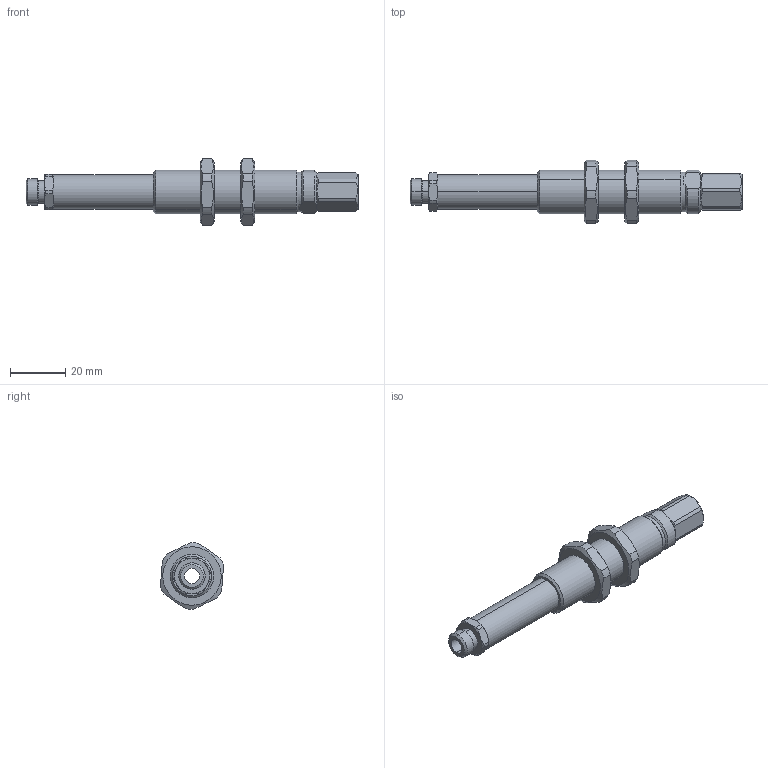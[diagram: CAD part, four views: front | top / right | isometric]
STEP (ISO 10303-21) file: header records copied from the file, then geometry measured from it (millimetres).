
FILE_DESCRIPTION (( 'STEP AP203' ), '1' );
FILE_NAME ('LC18X35-PUBLIC.STEP', '2011-06-27T19:13:42', ( '' ), ( '' ), 'SwSTEP 2.0', 'SolidWorks 2011', '' );
FILE_SCHEMA (( 'CONFIG_CONTROL_DESIGN' ));
Length unit declared in the file: inch
Products named in the file (1): LC18X35-PUBLIC
Bounding box: 120.14 x 22.88 x 24.11 mm (x, y, z)
Volume: 17610.5 mm3; surface area: 8902 mm2
Topology: 1 solids, 1 shells, 116 faces, 296 edges, 190 vertices
Faces by surface type: cylinder 44, plane 38, cone 34
Entity records: 3973 total; most frequent: CARTESIAN_POINT 1123, ORIENTED_EDGE 592, DIRECTION 572, EDGE_CURVE 296, AXIS2_PLACEMENT_3D 235, VERTEX_POINT 190, EDGE_LOOP 126, CIRCLE 118
